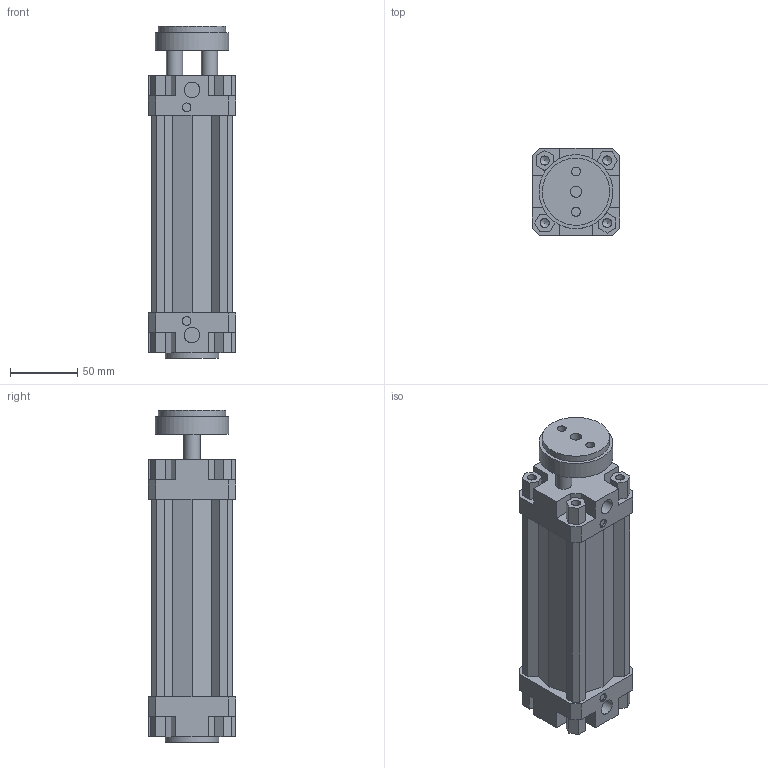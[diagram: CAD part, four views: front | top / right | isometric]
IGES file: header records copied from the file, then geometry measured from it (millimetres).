
Global section: file name: 132#_050_0100_01; native system: Autodesk Inventor 2014; preprocessor: unknown; author: A. Manieri; date: 20161006.155713; units: millimetre
Bounding box: 65 x 65 x 247 mm (x, y, z)
Volume: 531452.3 mm3; surface area: 132678.8 mm2
Topology: 2 solids, 2 shells, 180 faces, 492 edges, 336 vertices
Faces by surface type: bspline 180
